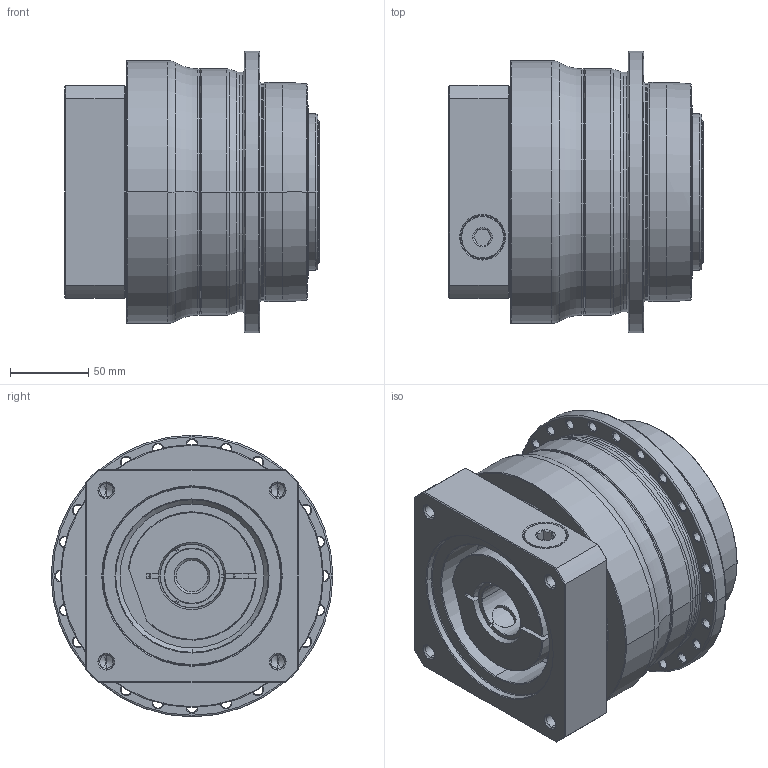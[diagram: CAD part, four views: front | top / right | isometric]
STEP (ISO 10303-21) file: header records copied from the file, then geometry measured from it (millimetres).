
FILE_DESCRIPTION((''),'2;1');
FILE_NAME('AP140_1ST_35-P0409800201_ASM','2018-05-25T',('d01226'),(''),'PRO/ENGINEER BY PARAMETRIC TECHNOLOGY CORPORATION, 2008410','PRO/ENGINEER BY PARAMETRIC TECHNOLOGY CORPORATION, 2008410','');
FILE_SCHEMA(('CONFIG_CONTROL_DESIGN'));
Length unit declared in the file: millimetre
Products named in the file (9): P0278501003; P0359501103; P1318510301; P0503800012; P0912503001; P1211500001; P0409800201; 21711422019; AP140_1ST_35-P0409800201_ASM
Assembly tree (8 placements, depth 2):
  AP140_1ST_35-P0409800201_ASM
    P0278501003
    P0359501103
    P1318510301
    P0503800012
    P0912503001
    P1211500001
    P0409800201
    21711422019
Bounding box: 162.5 x 180 x 180 mm (x, y, z)
Volume: 2543546.9 mm3; surface area: 332539.2 mm2
Topology: 9 solids, 34 shells, 643 faces, 1489 edges, 918 vertices
Faces by surface type: cylinder 270, cone 182, plane 109, torus 68, bspline 14
Entity records: 23323 total; most frequent: CARTESIAN_POINT 7869, DIRECTION 3559, ORIENTED_EDGE 2860, AXIS2_PLACEMENT_3D 1521, EDGE_CURVE 1481, VERTEX_POINT 918, CIRCLE 865, EDGE_LOOP 801
